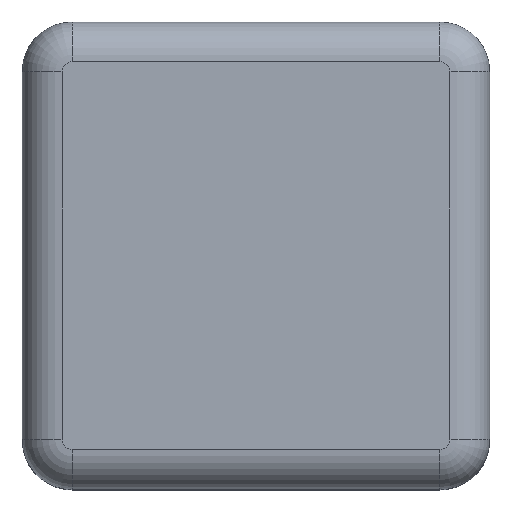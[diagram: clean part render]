
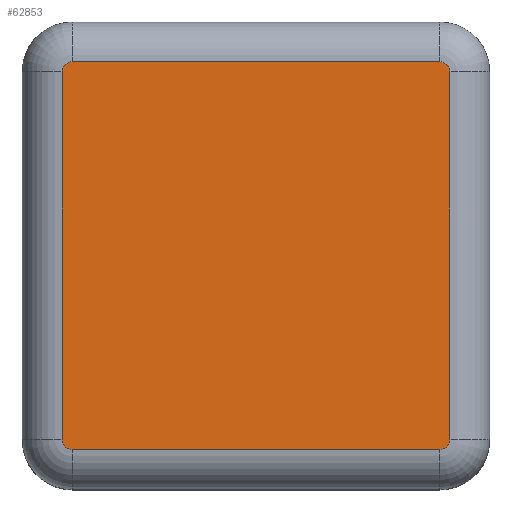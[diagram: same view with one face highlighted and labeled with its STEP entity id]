
A CAD part, top view. The second image highlights one B-rep face of the part: STEP entity #62853.
In plain terms, the highlighted planar face has unit normal (0, 0, 1).
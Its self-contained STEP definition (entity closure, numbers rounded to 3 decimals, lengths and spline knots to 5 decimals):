
#62=CIRCLE('',#65692,0.005);
#63=CIRCLE('',#65693,0.005);
#64=CIRCLE('',#65694,0.005);
#65=CIRCLE('',#65695,0.005);
#8722=ORIENTED_EDGE('',*,*,#23142,.T.);
#8723=ORIENTED_EDGE('',*,*,#23143,.T.);
#8724=ORIENTED_EDGE('',*,*,#23144,.T.);
#8725=ORIENTED_EDGE('',*,*,#23145,.T.);
#8726=ORIENTED_EDGE('',*,*,#23146,.T.);
#8727=ORIENTED_EDGE('',*,*,#23147,.T.);
#8728=ORIENTED_EDGE('',*,*,#23148,.T.);
#8729=ORIENTED_EDGE('',*,*,#23149,.T.);
#23142=EDGE_CURVE('',#31036,#31037,#38598,.F.);
#23143=EDGE_CURVE('',#31037,#31038,#62,.T.);
#23144=EDGE_CURVE('',#31038,#31039,#38599,.T.);
#23145=EDGE_CURVE('',#31039,#31040,#63,.T.);
#23146=EDGE_CURVE('',#31040,#31041,#38600,.T.);
#23147=EDGE_CURVE('',#31041,#31042,#64,.T.);
#23148=EDGE_CURVE('',#31042,#31043,#38601,.F.);
#23149=EDGE_CURVE('',#31043,#31036,#65,.T.);
#31036=VERTEX_POINT('',#90633);
#31037=VERTEX_POINT('',#90634);
#31038=VERTEX_POINT('',#90636);
#31039=VERTEX_POINT('',#90638);
#31040=VERTEX_POINT('',#90640);
#31041=VERTEX_POINT('',#90642);
#31042=VERTEX_POINT('',#90644);
#31043=VERTEX_POINT('',#90646);
#38598=LINE('',#90632,#47778);
#38599=LINE('',#90637,#47779);
#38600=LINE('',#90641,#47780);
#38601=LINE('',#90645,#47781);
#47778=VECTOR('',#74291,1.);
#47779=VECTOR('',#74294,1.);
#47780=VECTOR('',#74297,1.);
#47781=VECTOR('',#74300,1.);
#54119=EDGE_LOOP('',(#8722,#8723,#8724,#8725,#8726,#8727,#8728,#8729));
#57159=FACE_BOUND('',#54119,.T.);
#60187=PLANE('',#65691);
#62853=ADVANCED_FACE('',(#57159),#60187,.T.);
#65691=AXIS2_PLACEMENT_3D('',#90631,#74289,#74290);
#65692=AXIS2_PLACEMENT_3D('',#90635,#74292,#74293);
#65693=AXIS2_PLACEMENT_3D('',#90639,#74295,#74296);
#65694=AXIS2_PLACEMENT_3D('',#90643,#74298,#74299);
#65695=AXIS2_PLACEMENT_3D('',#90647,#74301,#74302);
#74289=DIRECTION('',(0.,0.,1.));
#74290=DIRECTION('',(1.,0.,0.));
#74291=DIRECTION('',(-1.,0.,0.));
#74292=DIRECTION('',(0.,0.,1.));
#74293=DIRECTION('',(1.,0.,0.));
#74294=DIRECTION('',(0.,1.,0.));
#74295=DIRECTION('',(0.,0.,1.));
#74296=DIRECTION('',(1.,0.,0.));
#74297=DIRECTION('',(-1.,0.,0.));
#74298=DIRECTION('',(0.,0.,1.));
#74299=DIRECTION('',(1.,0.,0.));
#74300=DIRECTION('',(0.,1.,0.));
#74301=DIRECTION('',(0.,0.,1.));
#74302=DIRECTION('',(1.,0.,0.));
#90631=CARTESIAN_POINT('',(0.,0.,0.));
#90632=CARTESIAN_POINT('',(0.0925,-0.0975,0.));
#90633=CARTESIAN_POINT('',(-0.0925,-0.0975,0.));
#90634=CARTESIAN_POINT('',(0.0925,-0.0975,0.));
#90635=CARTESIAN_POINT('',(0.0925,-0.0925,0.));
#90636=CARTESIAN_POINT('',(0.0975,-0.0925,0.));
#90637=CARTESIAN_POINT('',(0.0975,0.,0.));
#90638=CARTESIAN_POINT('',(0.0975,0.0925,0.));
#90639=CARTESIAN_POINT('',(0.0925,0.0925,0.));
#90640=CARTESIAN_POINT('',(0.0925,0.0975,0.));
#90641=CARTESIAN_POINT('',(0.,0.0975,0.));
#90642=CARTESIAN_POINT('',(-0.0925,0.0975,0.));
#90643=CARTESIAN_POINT('',(-0.0925,0.0925,0.));
#90644=CARTESIAN_POINT('',(-0.0975,0.0925,0.));
#90645=CARTESIAN_POINT('',(-0.0975,-0.0925,0.));
#90646=CARTESIAN_POINT('',(-0.0975,-0.0925,0.));
#90647=CARTESIAN_POINT('',(-0.0925,-0.0925,0.));
